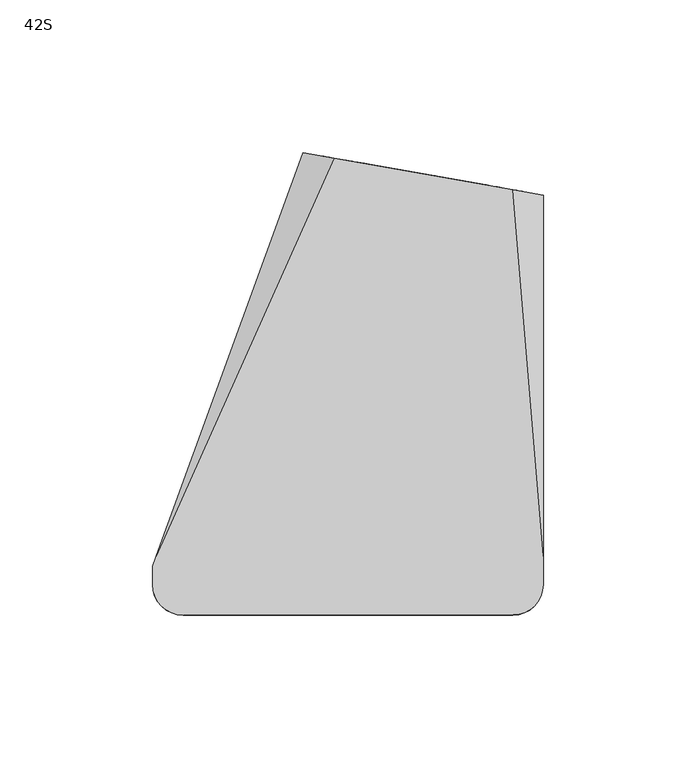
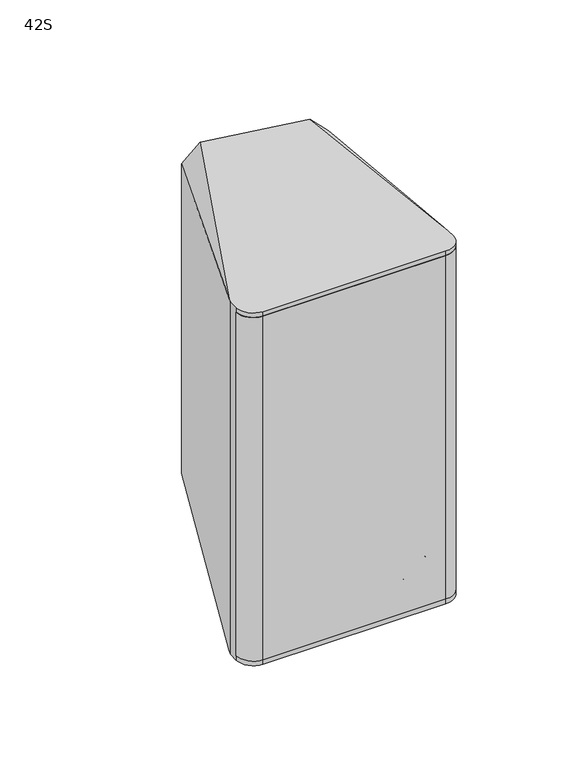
"""IFC4 building model written with IfcOpenShell, lengths in millimetres: proxy geometry, d&b xS-Series 42S Point Source : 42S."""

from ifc_helpers import new_model, si_unit, point, frame, frame_2d, origin, place, context, project, spatial, polyline, circle_curve, ellipse_curve, trimmed, segment, composite_curve, outline, extrude, source, transform, mapped, element, save
from ifc_brep_helpers import plane_surface, cylinder_surface, revolved_surface, advanced_brep


def proxy_42s_4a7ad22a(model_context):
    return source(origin(), model_context, "Body", "SolidModel", [
        extrude(outline(composite_curve([segment(polyline([(-54.0, -73.9650952), (54.078429, -73.9650952)]), True, "CONTINUOUS"), segment(trimmed(circle_curve(frame_2d((54.078429, -66.0)), 7.9650952), [point((54.078429, -73.9650952))], [point((62.0435242, -66.0))], True, "CARTESIAN"), True, "CONTINUOUS"), segment(polyline([(62.0435242, -66.0), (64.0, -66.0)]), True, "CONTINUOUS"), segment(trimmed(circle_curve(frame_2d((54.0, -66.0)), 10.0), [point((64.0, -66.0))], [point((54.0, -76.0))], False, "CARTESIAN"), True, "CONTINUOUS"), segment(polyline([(54.0, -76.0), (-54.0, -76.0)]), True, "CONTINUOUS"), segment(trimmed(circle_curve(frame_2d((-54.0, -65.9650952)), 10.0349048), [point((-54.0, -76.0))], [point((-64.0349048, -65.9650952))], False, "CARTESIAN"), True, "CONTINUOUS"), segment(polyline([(-64.0349048, -65.9650952), (-62.0, -65.9650952)]), True, "CONTINUOUS"), segment(trimmed(circle_curve(frame_2d((-54.0, -65.9650952)), 8.0), [point((-62.0, -65.9650952))], [point((-54.0, -73.9650952))], True, "CARTESIAN"), True, "CONTINUOUS")], self_intersect=False)), frame((0.0, 0.0, -107.0), z_axis=(0.0, 0.0, 1.0), x_axis=(1.0, 0.0, 0.0)), (0.0, 0.0, 1.0), 214.0),
        extrude(outline(polyline([(25.3333333, -76.0), (9.0, -76.0), (9.0, -71.0), (25.3333333, -71.0), (25.3333333, -76.0)])), frame((0.0, 0.0, -90.0), z_axis=(0.0, 0.0, 1.0), x_axis=(1.0, 0.0, 0.0)), (0.0, 0.0, 1.0), 16.3333333),
        extrude(outline(polyline([(25.3333333, -76.0), (9.0, -76.0), (9.0, -71.0), (25.3333333, -71.0), (25.3333333, -76.0)])), frame((0.0, 0.0, -71.3333333), z_axis=(0.0, 0.0, 1.0), x_axis=(1.0, 0.0, 0.0)), (0.0, 0.0, 1.0), 16.3333333),
        extrude(outline(polyline([(44.0, -76.0), (27.6666667, -76.0), (27.6666667, -71.0), (44.0, -71.0), (44.0, -76.0)])), frame((0.0, 0.0, -71.3333333), z_axis=(0.0, 0.0, 1.0), x_axis=(1.0, 0.0, 0.0)), (0.0, 0.0, 1.0), 16.3333333),
        extrude(outline(composite_curve([segment(trimmed(circle_curve(frame_2d((-81.8333333, 35.8333333)), 8.1666667), [point((-73.6666667, 35.8333333))], [point((-90.0, 35.8333333))], False, "CARTESIAN"), True, "CONTINUOUS"), segment(trimmed(circle_curve(frame_2d((-81.8333333, 35.8333333)), 8.1666667), [point((-90.0, 35.8333333))], [point((-73.6666667, 35.8333333))], False, "CARTESIAN"), True, "CONTINUOUS")], self_intersect=False)), frame((0.0, -76.0, 0.0), z_axis=(0.0, 1.0, 0.0), x_axis=(0.0, 0.0, 1.0)), (0.0, 0.0, 1.0), 5.0),
        advanced_brep(
        [(64.0, -66.0, -107.0), (64.0, -66.0, 107.0), (62.0435242, -66.0, 107.0), (62.0435242, -66.0, -107.0), (54.078429, -73.9650952, 107.0), (54.078429, -73.9650952, -107.0), (-54.0, -73.9650952, 107.0), (-54.0, -73.9650952, -107.0), (-62.0, -65.9650952, 107.0), (-62.0, -65.9650952, -107.0), (-64.0, -65.9650952, 107.0), (-64.0, -65.9650952, -107.0), (-64.0, -65.9650952, 109.8273531), (-64.0, -60.0349048, 109.7253263), (-64.0, -60.0349048, -109.7253263), (-64.0, -65.9650952, -109.8273531), (64.0, -66.0, -109.8279536), (64.0, -56.6972655, -109.6679034), (64.0, 61.6262346, -97.8946622), (64.0, 61.6262346, 97.8946622), (64.0, -56.6972655, 109.6679034), (64.0, -66.0, 109.8279536), (-14.6819894, 75.4999923, 96.5142171), (-14.6819894, 75.4999923, -96.5142171), (-62.7855103, -56.6972655, -109.6679034), (-62.7855103, -56.6972655, 109.6679034), (54.1190905, 63.3685056, -107.602215), (54.1190905, 63.3685056, 107.602215), (-4.5961827, 73.7215924, 107.4240938), (-4.5961827, 73.7215924, -107.4240938), (54.078429, -75.921571, -109.9986507), (-54.0, -75.9650952, -109.9993995), (-54.0, -75.9650952, 109.9993995), (54.078429, -75.9650952, 109.9993995), (-54.0, -75.9650952, -107.0), (54.078429, -75.9650952, -107.0), (45.1738745, 64.9457885, -95.447753), (57.4839714, 62.7751863, -82.947753), (57.4839714, 62.7751863, -67.052247), (45.1738745, 64.9457885, -54.552247), (4.2201563, 72.167034, -54.552247), (-8.0899406, 74.3376362, -67.052247), (-8.0899406, 74.3376362, -82.947753), (4.2201563, 72.167034, -95.447753), (45.1738745, 64.9457885, 52.1), (57.4839714, 62.7751863, 64.6), (57.4839714, 62.7751863, 82.4), (45.1738745, 64.9457885, 94.9), (4.2201563, 72.167034, 94.9), (-8.0899406, 74.3376362, 82.4), (-8.0899406, 74.3376362, 64.6), (4.2201563, 72.167034, 52.1), (44.3056336, 60.0217497, -95.447753), (3.3519154, 67.2429952, -95.447753), (-8.9581815, 69.4135974, -82.947753), (-8.9581815, 69.4135974, -67.052247), (3.3519154, 67.2429952, -54.552247), (44.3056336, 60.0217497, -54.552247), (56.6157306, 57.8511475, -67.052247), (56.6157306, 57.8511475, -82.947753), (44.3056336, 60.0217497, 52.1), (3.3519154, 67.2429952, 52.1), (-8.9581815, 69.4135974, 64.6), (-8.9581815, 69.4135974, 82.4), (3.3519154, 67.2429952, 94.9), (44.3056336, 60.0217497, 94.9), (56.6157306, 57.8511475, 82.4), (56.6157306, 57.8511475, 64.6), (54.078429, -75.921571, 107.0), (-54.0, -75.9650952, 107.0)],
        [
            (0, 1),
            (1, 2),
            (2, 3),
            (3, 0),
            (2, 4, circle_curve(frame((54.078429, -66.0, 107.0), z_axis=(0.0, 0.0, -1.0), x_axis=(1.0, 0.0, 0.0)), 7.9650952)),
            (4, 5),
            (5, 3, circle_curve(frame((54.078429, -66.0, -107.0), z_axis=(0.0, 0.0, 1.0), x_axis=(1.0, 0.0, 0.0)), 7.9650952)),
            (4, 6),
            (6, 7),
            (7, 5),
            (6, 8, circle_curve(frame((-54.0, -65.9650952, 107.0), z_axis=(0.0, 0.0, -1.0), x_axis=(1.0, 0.0, 0.0)), 8.0)),
            (8, 9),
            (9, 7, circle_curve(frame((-54.0, -65.9650952, -107.0), z_axis=(0.0, 0.0, 1.0), x_axis=(1.0, 0.0, 0.0)), 8.0)),
            (8, 10),
            (10, 11),
            (11, 9),
            (10, 12),
            (12, 13),
            (13, 14),
            (14, 15),
            (15, 11),
            (0, 16),
            (16, 17),
            (17, 18),
            (18, 19),
            (19, 20),
            (20, 21),
            (21, 1),
            (22, 23),
            (23, 24),
            (24, 14),
            (13, 25),
            (25, 22),
            (26, 18),
            (17, 26),
            (19, 27),
            (27, 20),
            (28, 22),
            (25, 28),
            (23, 29),
            (29, 24),
            (29, 26),
            (16, 30, ellipse_curve(frame((54.078429, -66.0, -109.8279536), z_axis=(0.0, 0.017202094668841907, -0.9998520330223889), x_axis=(0.0, -0.999852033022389, -0.017202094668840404)), 9.9230392, 9.921571)),
            (30, 31),
            (31, 15, ellipse_curve(frame((-54.0, -65.9650952, -109.8273531), z_axis=(0.0, 0.017202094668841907, -0.9998520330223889), x_axis=(0.0, -0.999852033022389, -0.017202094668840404)), 10.0014799, 10.0)),
            (12, 32, ellipse_curve(frame((-54.0, -65.9650952, 109.8273531), z_axis=(0.0, 0.0172020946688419, 0.9998520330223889), x_axis=(0.0, 0.9998520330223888, -0.01720209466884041)), 10.0014799, 10.0)),
            (32, 33),
            (33, 21, ellipse_curve(frame((54.078429, -66.0, 109.8279536), z_axis=(0.0, 0.0172020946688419, 0.9998520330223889), x_axis=(0.0, 0.9998520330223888, -0.01720209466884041)), 9.9230392, 9.921571)),
            (27, 28),
            (11, 34, circle_curve(frame((-54.0, -65.9650952, -107.0), z_axis=(0.0, 0.0, 1.0), x_axis=(1.0, 0.0, 0.0)), 10.0)),
            (34, 35),
            (35, 0, circle_curve(frame((54.078429, -66.0, -107.0), z_axis=(0.0, 0.0, 1.0), x_axis=(1.0, 0.0, 0.0)), 9.921571)),
            (35, 30),
            (34, 31),
            (36, 37, circle_curve(frame((45.1738745, 64.9457885, -82.947753), z_axis=(-0.17364817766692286, -0.9848077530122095, 0.0), x_axis=(-0.9848077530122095, 0.17364817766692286, 0.0)), 12.5)),
            (37, 38),
            (38, 39, circle_curve(frame((45.1738745, 64.9457885, -67.052247), z_axis=(-0.17364817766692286, -0.9848077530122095, 0.0), x_axis=(-0.9848077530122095, 0.17364817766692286, 0.0)), 12.5)),
            (39, 40),
            (40, 41, circle_curve(frame((4.2201563, 72.167034, -67.052247), z_axis=(-0.17364817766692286, -0.9848077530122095, 0.0), x_axis=(-0.9848077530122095, 0.17364817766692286, 0.0)), 12.5)),
            (41, 42),
            (42, 43, circle_curve(frame((4.2201563, 72.167034, -82.947753), z_axis=(-0.17364817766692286, -0.9848077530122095, 0.0), x_axis=(-0.9848077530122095, 0.17364817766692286, 0.0)), 12.5)),
            (43, 36),
            (44, 45, circle_curve(frame((45.1738745, 64.9457885, 64.6), z_axis=(-0.17364817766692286, -0.9848077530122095, 0.0), x_axis=(-0.9848077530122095, 0.17364817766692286, 0.0)), 12.5)),
            (45, 46),
            (46, 47, circle_curve(frame((45.1738745, 64.9457885, 82.4), z_axis=(-0.17364817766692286, -0.9848077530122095, 0.0), x_axis=(-0.9848077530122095, 0.17364817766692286, 0.0)), 12.5)),
            (47, 48),
            (48, 49, circle_curve(frame((4.2201563, 72.167034, 82.4), z_axis=(-0.17364817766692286, -0.9848077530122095, 0.0), x_axis=(-0.9848077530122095, 0.17364817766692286, 0.0)), 12.5)),
            (49, 50),
            (50, 51, circle_curve(frame((4.2201563, 72.167034, 64.6), z_axis=(-0.17364817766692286, -0.9848077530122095, 0.0), x_axis=(-0.9848077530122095, 0.17364817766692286, 0.0)), 12.5)),
            (51, 44),
            (52, 53),
            (53, 54, circle_curve(frame((3.3519154, 67.2429952, -82.947753), z_axis=(0.17364817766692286, 0.9848077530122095, 0.0), x_axis=(-0.9848077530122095, 0.17364817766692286, 0.0)), 12.5)),
            (54, 55),
            (55, 56, circle_curve(frame((3.3519154, 67.2429952, -67.052247), z_axis=(0.17364817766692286, 0.9848077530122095, 0.0), x_axis=(-0.9848077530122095, 0.17364817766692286, 0.0)), 12.5)),
            (56, 57),
            (57, 58, circle_curve(frame((44.3056336, 60.0217497, -67.052247), z_axis=(0.17364817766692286, 0.9848077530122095, 0.0), x_axis=(-0.9848077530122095, 0.17364817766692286, 0.0)), 12.5)),
            (58, 59),
            (59, 52, circle_curve(frame((44.3056336, 60.0217497, -82.947753), z_axis=(0.17364817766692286, 0.9848077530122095, 0.0), x_axis=(-0.9848077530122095, 0.17364817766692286, 0.0)), 12.5)),
            (60, 61),
            (61, 62, circle_curve(frame((3.3519154, 67.2429952, 64.6), z_axis=(0.17364817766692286, 0.9848077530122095, 0.0), x_axis=(-0.9848077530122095, 0.17364817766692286, 0.0)), 12.5)),
            (62, 63),
            (63, 64, circle_curve(frame((3.3519154, 67.2429952, 82.4), z_axis=(0.17364817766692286, 0.9848077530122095, 0.0), x_axis=(-0.9848077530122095, 0.17364817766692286, 0.0)), 12.5)),
            (64, 65),
            (65, 66, circle_curve(frame((44.3056336, 60.0217497, 82.4), z_axis=(0.17364817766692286, 0.9848077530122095, 0.0), x_axis=(-0.9848077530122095, 0.17364817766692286, 0.0)), 12.5)),
            (66, 67),
            (67, 60, circle_curve(frame((44.3056336, 60.0217497, 64.6), z_axis=(0.17364817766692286, 0.9848077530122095, 0.0), x_axis=(-0.9848077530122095, 0.17364817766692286, 0.0)), 12.5)),
            (1, 68, circle_curve(frame((54.078429, -66.0, 107.0), z_axis=(0.0, 0.0, -1.0), x_axis=(1.0, 0.0, 0.0)), 9.921571)),
            (68, 69),
            (69, 10, circle_curve(frame((-54.0, -65.9650952, 107.0), z_axis=(0.0, 0.0, -1.0), x_axis=(1.0, 0.0, 0.0)), 10.0)),
            (33, 68),
            (32, 69),
            (59, 37),
            (36, 52),
            (58, 38),
            (57, 39),
            (56, 40),
            (55, 41),
            (54, 42),
            (53, 43),
            (67, 45),
            (44, 60),
            (66, 46),
            (65, 47),
            (64, 48),
            (63, 49),
            (62, 50),
            (61, 51),
        ],
        [
            plane_surface(frame((64.0, -66.0, -107.0), z_axis=(0.0, -1.0, 0.0), x_axis=(0.0, 0.0, 1.0))),
            cylinder_surface(frame((54.078429, -66.0, 107.0), z_axis=(0.0, 0.0, -1.0), x_axis=(1.0, 0.0, 0.0)), 7.9650952),
            plane_surface(frame((54.078429, -73.9650952, -107.0), z_axis=(0.0, -1.0, 0.0), x_axis=(0.0, 0.0, 1.0))),
            cylinder_surface(frame((-54.0, -65.9650952, 107.0), z_axis=(0.0, 0.0, -1.0), x_axis=(1.0, 0.0, 0.0)), 8.0),
            plane_surface(frame((-62.0, -65.9650952, -107.0), z_axis=(0.0, -1.0, 0.0), x_axis=(0.0, 0.0, 1.0))),
            plane_surface(frame((-64.0, -65.9650952, -107.0), z_axis=(-1.0, 0.0, 0.0), x_axis=(0.0, 0.0, 1.0))),
            plane_surface(frame((64.0, -60.0349048, -107.0), z_axis=(1.0, 0.0, 0.0), x_axis=(0.0, 0.0, 1.0))),
            plane_surface(frame((-14.5000481, 76.0, 0.0), z_axis=(-0.9397208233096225, 0.3419426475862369, 0.0), x_axis=(0.0, 0.0, -1.0))),
            plane_surface(frame((57.232233, 76.0, -103.232233), z_axis=(0.7053631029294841, 0.07018394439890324, -0.7053631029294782), x_axis=(0.7071067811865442, 0.0, 0.7071067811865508))),
            plane_surface(frame((57.232233, 76.0, 103.232233), z_axis=(0.7053631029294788, 0.07018394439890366, 0.7053631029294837), x_axis=(-0.7071067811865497, 0.0, 0.7071067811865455))),
            plane_surface(frame((-7.7322812, 76.0, 103.232233), z_axis=(-0.6719558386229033, 0.31136907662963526, 0.6719558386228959), x_axis=(-0.7071067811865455, 0.0, -0.7071067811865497))),
            plane_surface(frame((-7.7322812, 76.0, -103.232233), z_axis=(-0.6719558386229, 0.311369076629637, -0.6719558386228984), x_axis=(0.7071067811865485, 0.0, -0.7071067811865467))),
            plane_surface(frame((-100.0, -97.3033587, -110.3665166), z_axis=(0.0, 0.017202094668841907, -0.9998520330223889), x_axis=(1.0, 0.0, 0.0))),
            plane_surface(frame((-100.0, 83.9889493, 107.2474477), z_axis=(0.0, 0.0172020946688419, 0.9998520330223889), x_axis=(1.0, 0.0, 0.0))),
            plane_surface(frame((64.0, -66.0, -107.0), z_axis=(0.0, 0.0, 1.0), x_axis=(0.0, 1.0, 0.0))),
            cylinder_surface(frame((54.078429, -66.0, -107.0), z_axis=(0.0, 0.0, -1.0), x_axis=(1.0, 0.0, 0.0)), 9.921571),
            plane_surface(frame((54.078429, -75.9650952, -112.6426388), z_axis=(0.0, -1.0, 0.0), x_axis=(0.0, 0.0, 1.0))),
            cylinder_surface(frame((-54.0, -65.9650952, -107.0), z_axis=(0.0, 0.0, -1.0), x_axis=(1.0, 0.0, 0.0)), 10.0),
            plane_surface(frame((81.2585403, 58.5830883, -250.0), z_axis=(0.1736481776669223, 0.9848077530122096, 0.0), x_axis=(0.0, 0.0, 1.0))),
            plane_surface(frame((31.9955367, 62.192352, -82.947753), z_axis=(0.17364817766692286, 0.9848077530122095, 0.0), x_axis=(0.0, 0.0, -1.0))),
            plane_surface(frame((64.0, -66.0, 107.0), z_axis=(0.0, 0.0, -1.0), x_axis=(0.0, -1.0, 0.0))),
            cylinder_surface(frame((54.078429, -66.0, 113.0), z_axis=(0.0, 0.0, -1.0), x_axis=(1.0, 0.0, 0.0)), 9.921571),
            plane_surface(frame((54.078429, -75.9650952, 107.0), z_axis=(0.0, -1.0, 0.0), x_axis=(0.0, 0.0, 1.0))),
            cylinder_surface(frame((-54.0, -65.9650952, 113.0), z_axis=(0.0, 0.0, -1.0), x_axis=(1.0, 0.0, 0.0)), 10.0),
            revolved_surface(polyline([(31.995536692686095, 62.19235191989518, -82.947753), (32.86377759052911, 67.11639073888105, -82.947753)]), (45.1738745, 64.9457885, -82.947753), (-0.17364817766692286, -0.9848077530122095, 0.0)),
            plane_surface(frame((56.6157306, 57.8511475, -82.947753), z_axis=(-0.9848077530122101, 0.17364817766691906, 0.0), x_axis=(0.17364817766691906, 0.9848077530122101, 0.0))),
            revolved_surface(polyline([(31.995536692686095, 62.19235191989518, -67.052247), (32.86377759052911, 67.11639073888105, -67.052247)]), (45.1738745, 64.9457885, -67.052247), (-0.17364817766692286, -0.9848077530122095, 0.0)),
            plane_surface(frame((44.3056336, 60.0217497, -54.552247), z_axis=(0.0, 0.0, -1.0000000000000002), x_axis=(0.17364817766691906, 0.9848077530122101, 0.0))),
            revolved_surface(polyline([(-8.958181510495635, 69.41359740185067, -67.052247), (-8.089940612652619, 74.33763622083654, -67.052247)]), (4.2201563, 72.167034, -67.052247), (-0.17364817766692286, -0.9848077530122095, 0.0)),
            plane_surface(frame((-8.9581815, 69.4135974, -67.052247), z_axis=(0.9848077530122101, -0.17364817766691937, 0.0), x_axis=(0.17364817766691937, 0.9848077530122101, 0.0))),
            revolved_surface(polyline([(-8.958181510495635, 69.41359740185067, -82.947753), (-8.089940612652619, 74.33763622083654, -82.947753)]), (4.2201563, 72.167034, -82.947753), (-0.17364817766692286, -0.9848077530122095, 0.0)),
            plane_surface(frame((3.3519154, 67.2429952, -95.447753), z_axis=(0.0, 0.0, 1.0000000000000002), x_axis=(0.17364817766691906, 0.9848077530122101, 0.0))),
            revolved_surface(polyline([(31.995536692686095, 62.19235191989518, 64.6), (32.86377759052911, 67.11639073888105, 64.6)]), (45.1738745, 64.9457885, 64.6), (-0.17364817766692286, -0.9848077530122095, 0.0)),
            plane_surface(frame((56.6157306, 57.8511475, 64.6), z_axis=(-0.9848077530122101, 0.17364817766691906, 0.0), x_axis=(0.17364817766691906, 0.9848077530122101, 0.0))),
            revolved_surface(polyline([(31.995536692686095, 62.19235191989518, 82.4), (32.86377759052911, 67.11639073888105, 82.4)]), (45.1738745, 64.9457885, 82.4), (-0.17364817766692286, -0.9848077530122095, 0.0)),
            plane_surface(frame((44.3056336, 60.0217497, 94.9), z_axis=(0.0, 0.0, -1.0000000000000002), x_axis=(0.17364817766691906, 0.9848077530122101, 0.0))),
            revolved_surface(polyline([(-8.958181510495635, 69.41359740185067, 82.4), (-8.089940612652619, 74.33763622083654, 82.4)]), (4.2201563, 72.167034, 82.4), (-0.17364817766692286, -0.9848077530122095, 0.0)),
            plane_surface(frame((-8.9581815, 69.4135974, 82.4), z_axis=(0.9848077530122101, -0.17364817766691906, 0.0), x_axis=(0.17364817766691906, 0.9848077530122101, 0.0))),
            revolved_surface(polyline([(-8.958181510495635, 69.41359740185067, 64.6), (-8.089940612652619, 74.33763622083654, 64.6)]), (4.2201563, 72.167034, 64.6), (-0.17364817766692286, -0.9848077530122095, 0.0)),
            plane_surface(frame((3.3519154, 67.2429952, 52.1), z_axis=(0.0, 0.0, 1.0000000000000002), x_axis=(0.17364817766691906, 0.9848077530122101, 0.0))),
        ],
        [
            (0, [[1, 2, 3, 4]]),
            (1, [[-3, 5, 6, 7]]),
            (2, [[-6, 8, 9, 10]]),
            (3, [[-9, 11, 12, 13]]),
            (4, [[-12, 14, 15, 16]]),
            (5, [[-15, 17, 18, 19, 20, 21]]),
            (6, [[-1, 22, 23, 24, 25, 26, 27, 28]]),
            (7, [[29, 30, 31, -19, 32, 33]]),
            (8, [[34, -24, 35]]),
            (9, [[-26, 36, 37]]),
            (10, [[38, -33, 39]]),
            (11, [[-30, 40, 41]]),
            (12, [[-20, -31, -41, 42, -35, -23, 43, 44, 45]]),
            (13, [[-18, 46, 47, 48, -27, -37, 49, -39, -32]]),
            (14, [[50, 51, 52, -4, -7, -10, -13, -16]]),
            (15, [[-52, 53, -43, -22]]),
            (16, [[-51, 54, -44, -53]]),
            (17, [[-50, -21, -45, -54]]),
            (18, [[-25, -34, -42, -40, -29, -38, -49, -36], [55, 56, 57, 58, 59, 60, 61, 62], [63, 64, 65, 66, 67, 68, 69, 70]]),
            (19, [[71, 72, 73, 74, 75, 76, 77, 78]]),
            (19, [[79, 80, 81, 82, 83, 84, 85, 86]]),
            (20, [[87, 88, 89, -14, -11, -8, -5, -2]]),
            (21, [[-87, -28, -48, 90]]),
            (22, [[-88, -90, -47, 91]]),
            (23, [[-89, -91, -46, -17]]),
            (24, [[-78, 92, -55, 93]]),
            (25, [[-77, 94, -56, -92]]),
            (26, [[-76, 95, -57, -94]]),
            (27, [[-75, 96, -58, -95]]),
            (28, [[-74, 97, -59, -96]]),
            (29, [[-73, 98, -60, -97]]),
            (30, [[-72, 99, -61, -98]]),
            (31, [[-71, -93, -62, -99]]),
            (32, [[-86, 100, -63, 101]]),
            (33, [[-85, 102, -64, -100]]),
            (34, [[-84, 103, -65, -102]]),
            (35, [[-83, 104, -66, -103]]),
            (36, [[-82, 105, -67, -104]]),
            (37, [[-81, 106, -68, -105]]),
            (38, [[-80, 107, -69, -106]]),
            (39, [[-79, -101, -70, -107]]),
        ],
    ),
        extrude(outline(composite_curve([segment(trimmed(circle_curve(frame_2d((0.0, -12.0)), 12.0), [point((0.0, -24.0))], [point((0.0, 0.0))], False, "CARTESIAN"), True, "CONTINUOUS"), segment(trimmed(circle_curve(frame_2d((0.0, -12.0)), 12.0), [point((0.0, 0.0))], [point((0.0, -24.0))], False, "CARTESIAN"), True, "CONTINUOUS")], self_intersect=False)), frame((50.3782035, 58.9509918, 74.8471384), z_axis=(0.1736481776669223, 0.9848077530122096, 0.0), x_axis=(0.0, 0.0, 1.0)), (0.0, 0.0, 1.0), 5.0),
        extrude(outline(composite_curve([segment(trimmed(circle_curve(frame_2d((0.0, -42.0)), 12.0), [point((0.0, -54.0))], [point((0.0, -30.0))], False, "CARTESIAN"), True, "CONTINUOUS"), segment(trimmed(circle_curve(frame_2d((0.0, -42.0)), 12.0), [point((0.0, -30.0))], [point((0.0, -54.0))], False, "CARTESIAN"), True, "CONTINUOUS")], self_intersect=False)), frame((50.3782035, 58.9509918, 74.8471384), z_axis=(0.1736481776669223, 0.9848077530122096, 0.0), x_axis=(0.0, 0.0, 1.0)), (0.0, 0.0, 1.0), 5.0),
    ])


if __name__ == "__main__":
    model = new_model("IFC4")
    model_context = context("Model", 3, world=origin())
    ifc_project = project(units=[si_unit("LENGTHUNIT", "METRE", prefix="MILLI")], contexts=[model_context])
    site = spatial("IfcSite", under=ifc_project)
    building = spatial("IfcBuilding", under=site)
    placement = place(None, origin())
    proxy_42s_shape = proxy_42s_4a7ad22a(model_context)
    element("IfcBuildingElementProxy", 1, Name="d&b xS-Series 42S Point Source : 42S", ObjectType="d&b xS-Series 42S Point Source : 42S", at=placement, inside=building, context=model_context, shape_type="MappedRepresentation", body=[
        mapped(proxy_42s_shape, transform((0.0, 0.0, 0.0), x_axis=(1.0, 0.0, 0.0), y_axis=(0.0, 1.0, 0.0), z_axis=(0.0, 0.0, 1.0))),
    ])
    save(model, "model.ifc")
